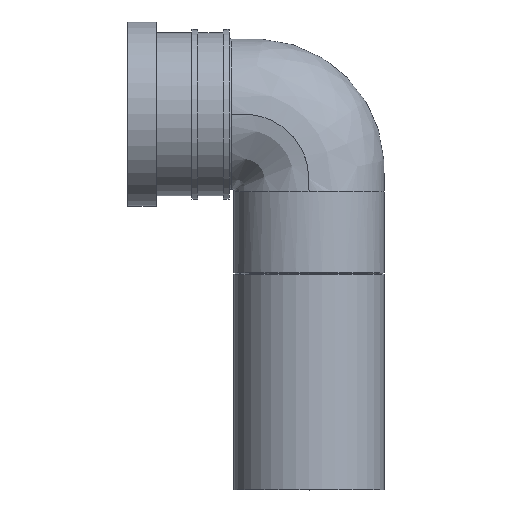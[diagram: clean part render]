
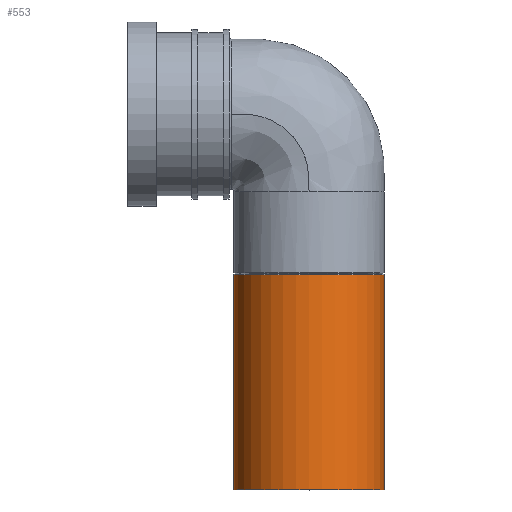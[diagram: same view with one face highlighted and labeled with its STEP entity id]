
A CAD part, top view. The second image highlights one B-rep face of the part: STEP entity #553.
In plain terms, the highlighted cylindrical face has radius 45.188 mm (diameter 90.375 mm), a full revolution.
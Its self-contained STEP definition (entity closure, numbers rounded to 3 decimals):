
#79=CYLINDRICAL_SURFACE($,#610,45.188);
#94=FACE_BOUND($,#172,.T.);
#129=FACE_OUTER_BOUND($,#171,.T.);
#171=EDGE_LOOP($,(#387));
#172=EDGE_LOOP($,(#388));
#235=CIRCLE($,#601,45.188);
#240=CIRCLE($,#611,45.188);
#264=VERTEX_POINT($,#794);
#277=VERTEX_POINT($,#883);
#309=EDGE_CURVE($,#264,#264,#235,.T.);
#323=EDGE_CURVE($,#277,#277,#240,.T.);
#387=ORIENTED_EDGE($,*,*,#309,.T.);
#388=ORIENTED_EDGE($,*,*,#323,.F.);
#553=ADVANCED_FACE($,(#129,#94),#79,.T.);
#601=AXIS2_PLACEMENT_3D($,#795,#668,#669);
#610=AXIS2_PLACEMENT_3D($,#882,#686,#687);
#611=AXIS2_PLACEMENT_3D($,#884,#688,#689);
#668=DIRECTION('center_axis',(0.,-1.,0.));
#669=DIRECTION('ref_axis',(1.,0.,0.));
#686=DIRECTION('center_axis',(0.,1.,0.));
#687=DIRECTION('ref_axis',(1.,0.,0.));
#688=DIRECTION('center_axis',(0.,-1.,0.));
#689=DIRECTION('ref_axis',(1.,0.,0.));
#794=CARTESIAN_POINT('',(45.188,129.478,0.));
#795=CARTESIAN_POINT('Origin',(0.,129.478,0.));
#882=CARTESIAN_POINT('Origin',(0.,0.,0.));
#883=CARTESIAN_POINT('',(-45.188,0.,0.));
#884=CARTESIAN_POINT('Origin',(0.,0.,0.));
